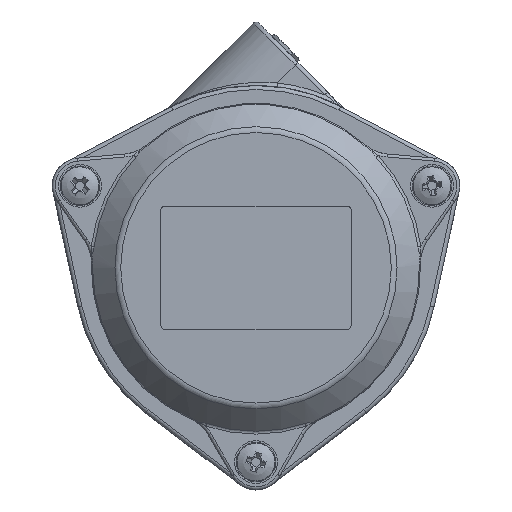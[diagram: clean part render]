
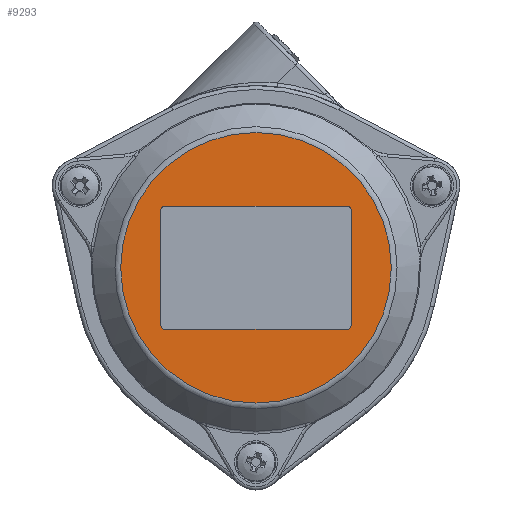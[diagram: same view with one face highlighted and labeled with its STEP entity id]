
A CAD part, top view. The second image highlights one B-rep face of the part: STEP entity #9293.
In plain terms, the highlighted planar face has unit normal (0, 0, 1).
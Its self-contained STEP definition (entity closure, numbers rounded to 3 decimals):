
#144=FACE_BOUND('',#2239,.T.);
#1126=PLANE('',#10216);
#1683=FACE_OUTER_BOUND('',#2238,.T.);
#2238=EDGE_LOOP('',(#8008));
#2239=EDGE_LOOP('',(#8009,#8010,#8011,#8012,#8013,#8014,#8015,#8016));
#2821=LINE('',#16217,#3362);
#2825=LINE('',#16226,#3366);
#2828=LINE('',#16234,#3369);
#2831=LINE('',#16242,#3372);
#3362=VECTOR('',#12352,10.);
#3366=VECTOR('',#12362,10.);
#3369=VECTOR('',#12371,10.);
#3372=VECTOR('',#12380,10.);
#3883=CIRCLE('',#10203,1.);
#3884=CIRCLE('',#10206,1.);
#3885=CIRCLE('',#10209,1.);
#3886=CIRCLE('',#10212,1.);
#3887=CIRCLE('',#10217,34.128);
#4647=VERTEX_POINT('',#16214);
#4648=VERTEX_POINT('',#16216);
#4649=VERTEX_POINT('',#16220);
#4650=VERTEX_POINT('',#16224);
#4651=VERTEX_POINT('',#16228);
#4652=VERTEX_POINT('',#16232);
#4653=VERTEX_POINT('',#16236);
#4654=VERTEX_POINT('',#16240);
#4655=VERTEX_POINT('',#16252);
#5809=EDGE_CURVE('',#4648,#4647,#2821,.T.);
#5812=EDGE_CURVE('',#4647,#4649,#3883,.T.);
#5814=EDGE_CURVE('',#4649,#4650,#2825,.T.);
#5816=EDGE_CURVE('',#4650,#4651,#3884,.T.);
#5818=EDGE_CURVE('',#4651,#4652,#2828,.T.);
#5820=EDGE_CURVE('',#4652,#4653,#3885,.T.);
#5822=EDGE_CURVE('',#4653,#4654,#2831,.T.);
#5823=EDGE_CURVE('',#4654,#4648,#3886,.T.);
#5827=EDGE_CURVE('',#4655,#4655,#3887,.T.);
#8008=ORIENTED_EDGE('',*,*,#5827,.F.);
#8009=ORIENTED_EDGE('',*,*,#5823,.T.);
#8010=ORIENTED_EDGE('',*,*,#5809,.T.);
#8011=ORIENTED_EDGE('',*,*,#5812,.T.);
#8012=ORIENTED_EDGE('',*,*,#5814,.T.);
#8013=ORIENTED_EDGE('',*,*,#5816,.T.);
#8014=ORIENTED_EDGE('',*,*,#5818,.T.);
#8015=ORIENTED_EDGE('',*,*,#5820,.T.);
#8016=ORIENTED_EDGE('',*,*,#5822,.T.);
#9293=ADVANCED_FACE('',(#1683,#144),#1126,.T.);
#10203=AXIS2_PLACEMENT_3D('',#16222,#12357,#12358);
#10206=AXIS2_PLACEMENT_3D('',#16230,#12366,#12367);
#10209=AXIS2_PLACEMENT_3D('',#16238,#12375,#12376);
#10212=AXIS2_PLACEMENT_3D('',#16244,#12383,#12384);
#10216=AXIS2_PLACEMENT_3D('',#16251,#12394,#12395);
#10217=AXIS2_PLACEMENT_3D('',#16253,#12396,#12397);
#12352=DIRECTION('',(1.,0.,0.));
#12357=DIRECTION('center_axis',(0.,0.,
-1.));
#12358=DIRECTION('ref_axis',(-1.,0.,0.));
#12362=DIRECTION('',(0.,-1.,0.));
#12366=DIRECTION('center_axis',(0.,0.,
-1.));
#12367=DIRECTION('ref_axis',(0.,1.,0.));
#12371=DIRECTION('',(-1.,0.,0.));
#12375=DIRECTION('center_axis',(0.,0.,
-1.));
#12376=DIRECTION('ref_axis',(1.,0.,0.));
#12380=DIRECTION('',(0.,1.,0.));
#12383=DIRECTION('center_axis',(0.,0.,
-1.));
#12384=DIRECTION('ref_axis',(0.,-1.,0.));
#12394=DIRECTION('center_axis',(0.,0.,
1.));
#12395=DIRECTION('ref_axis',(0.,-1.,0.));
#12396=DIRECTION('center_axis',(0.,0.,
-1.));
#12397=DIRECTION('ref_axis',(1.,0.,0.));
#16214=CARTESIAN_POINT('',(23.,15.5,14.));
#16216=CARTESIAN_POINT('',(-23.,15.5,14.));
#16217=CARTESIAN_POINT('',(20.032,15.5,14.));
#16220=CARTESIAN_POINT('',(24.,14.5,14.));
#16222=CARTESIAN_POINT('Origin',(23.,14.5,14.));
#16224=CARTESIAN_POINT('',(24.,-14.5,14.));
#16226=CARTESIAN_POINT('',(24.,-7.25,14.));
#16228=CARTESIAN_POINT('',(23.,-15.5,14.));
#16230=CARTESIAN_POINT('Origin',(23.,-14.5,14.));
#16232=CARTESIAN_POINT('',(-23.,-15.5,14.));
#16234=CARTESIAN_POINT('',(-2.968,-15.5,14.));
#16236=CARTESIAN_POINT('',(-24.,-14.5,14.));
#16238=CARTESIAN_POINT('Origin',(-23.,-14.5,14.));
#16240=CARTESIAN_POINT('',(-24.,14.5,14.));
#16242=CARTESIAN_POINT('',(-24.,7.25,14.));
#16244=CARTESIAN_POINT('Origin',(-23.,14.5,14.));
#16251=CARTESIAN_POINT('Origin',(17.064,0.,
14.));
#16252=CARTESIAN_POINT('',(0.,-34.128,14.));
#16253=CARTESIAN_POINT('Origin',(0.,0.,
14.));
